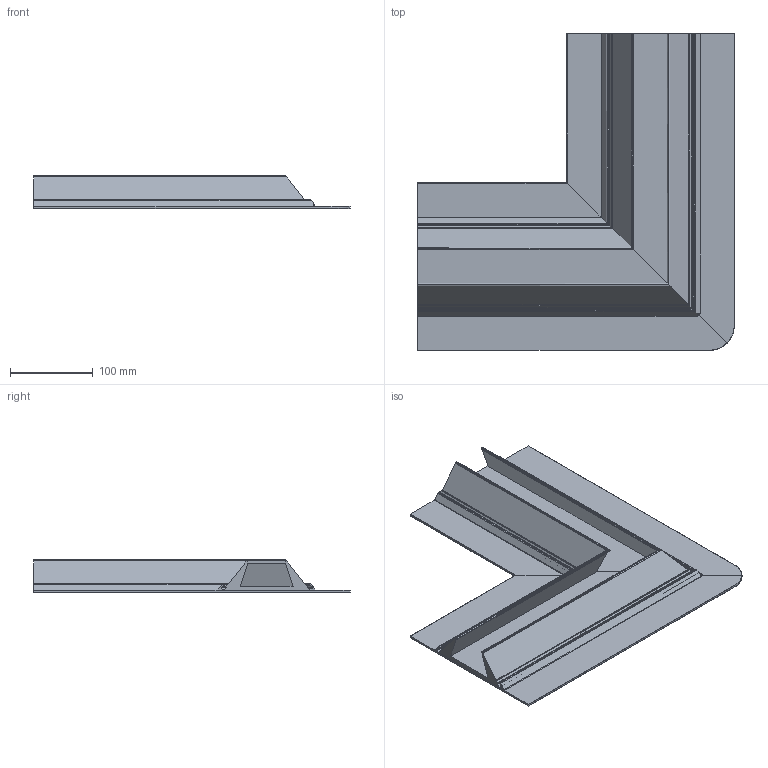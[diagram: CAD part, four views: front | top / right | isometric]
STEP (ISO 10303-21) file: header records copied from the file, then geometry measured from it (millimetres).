
FILE_DESCRIPTION(/* description */ (''),/* implementation_level */ '2;1');
FILE_NAME(/* name */ '1NAHW0~5',/* time_stamp */ '2026-03-05T15:24:33+01:00',/* author */ (''),/* organization */ (''),/* preprocessor_version */ 'ST-DEVELOPER v16.5',/* originating_system */ '',/* authorisation */ '');
FILE_SCHEMA (('AUTOMOTIVE_DESIGN'));
Length unit declared in the file: millimetre
Products named in the file (1): Document
Bounding box: 382.2 x 382.2 x 40 mm (x, y, z)
Volume: 927164.2 mm3; surface area: 461572.4 mm2
Topology: 2 solids, 2 shells, 176 faces, 428 edges, 252 vertices
Faces by surface type: bspline 176
Entity records: 10371 total; most frequent: CARTESIAN_POINT 5030, B_SPLINE_CURVE_WITH_KNOTS 1021, ORIENTED_EDGE 856, PCURVE 856, DEFINITIONAL_REPRESENTATION 856, SURFACE_CURVE 428, EDGE_CURVE 428, VERTEX_POINT 252
